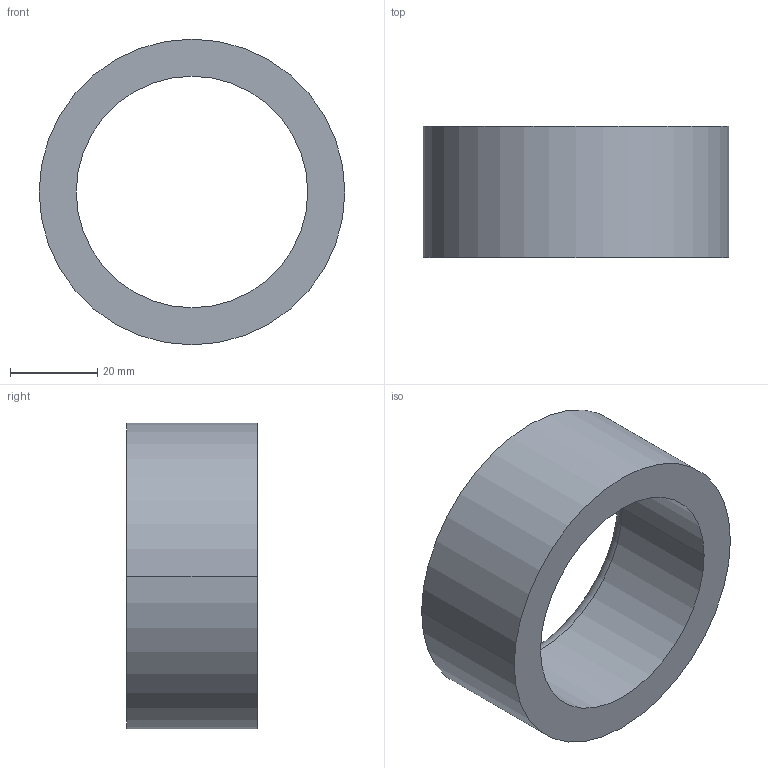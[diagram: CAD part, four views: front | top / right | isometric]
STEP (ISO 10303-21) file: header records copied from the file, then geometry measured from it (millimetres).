
FILE_DESCRIPTION (( 'STEP AP203' ), '1' );
FILE_NAME ('30800.WPP70L53.0.step', '2019-01-23T23:00:49', ( '' ), ( '' ), 'SwSTEP 2.0', 'SolidWorks 2017', '' );
FILE_SCHEMA (( 'CONFIG_CONTROL_DESIGN' ));
Length unit declared in the file: millimetre
Products named in the file (1): 30800.WPP70L53.0
Bounding box: 70 x 30 x 70 mm (x, y, z)
Volume: 48817.4 mm3; surface area: 14632.3 mm2
Topology: 1 solids, 1 shells, 8 faces, 16 edges, 10 vertices
Faces by surface type: cylinder 4, torus 2, plane 2
Entity records: 297 total; most frequent: DIRECTION 46, CARTESIAN_POINT 35, ORIENTED_EDGE 32, AXIS2_PLACEMENT_3D 21, EDGE_CURVE 16, CIRCLE 12, VERTEX_POINT 10, EDGE_LOOP 10
